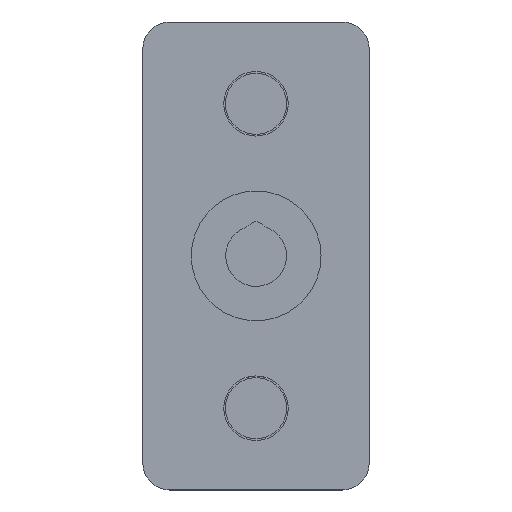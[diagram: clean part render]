
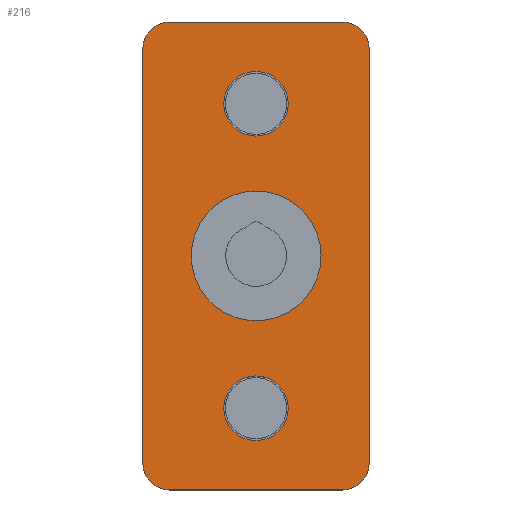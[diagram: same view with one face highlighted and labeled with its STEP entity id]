
A CAD part, top view. The second image highlights one B-rep face of the part: STEP entity #216.
In plain terms, the highlighted planar face has unit normal (0, 0, 1).
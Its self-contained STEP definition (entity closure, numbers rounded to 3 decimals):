
#216 = ADVANCED_FACE('',(#217,#287,#307,#327),#347,.T.);
#217 = FACE_BOUND('',#218,.T.);
#218 = EDGE_LOOP('',(#219,#229,#238,#246,#255,#263,#272,#280));
#219 = ORIENTED_EDGE('',*,*,#220,.T.);
#220 = EDGE_CURVE('',#221,#223,#225,.T.);
#221 = VERTEX_POINT('',#222);
#222 = CARTESIAN_POINT('',(59.5,-109.,6.));
#223 = VERTEX_POINT('',#224);
#224 = CARTESIAN_POINT('',(59.5,109.,
    6.));
#225 = LINE('',#226,#227);
#226 = CARTESIAN_POINT('',(59.5,-109.,6.));
#227 = VECTOR('',#228,1.);
#228 = DIRECTION('',(0.,1.,0.));
#229 = ORIENTED_EDGE('',*,*,#230,.T.);
#230 = EDGE_CURVE('',#223,#231,#233,.T.);
#231 = VERTEX_POINT('',#232);
#232 = CARTESIAN_POINT('',(45.5,123.,
    6.));
#233 = CIRCLE('',#234,14.);
#234 = AXIS2_PLACEMENT_3D('',#235,#236,#237);
#235 = CARTESIAN_POINT('',(45.5,109.,
    6.));
#236 = DIRECTION('',(0.,0.,1.));
#237 = DIRECTION('',(0.,-1.,0.));
#238 = ORIENTED_EDGE('',*,*,#239,.T.);
#239 = EDGE_CURVE('',#231,#240,#242,.T.);
#240 = VERTEX_POINT('',#241);
#241 = CARTESIAN_POINT('',(-45.5,123.,
    6.));
#242 = LINE('',#243,#244);
#243 = CARTESIAN_POINT('',(45.5,123.,
    6.));
#244 = VECTOR('',#245,1.);
#245 = DIRECTION('',(-1.,0.,0.));
#246 = ORIENTED_EDGE('',*,*,#247,.T.);
#247 = EDGE_CURVE('',#240,#248,#250,.T.);
#248 = VERTEX_POINT('',#249);
#249 = CARTESIAN_POINT('',(-59.5,109.,
    6.));
#250 = CIRCLE('',#251,14.);
#251 = AXIS2_PLACEMENT_3D('',#252,#253,#254);
#252 = CARTESIAN_POINT('',(-45.5,109.,
    6.));
#253 = DIRECTION('',(0.,0.,1.));
#254 = DIRECTION('',(0.,-1.,0.));
#255 = ORIENTED_EDGE('',*,*,#256,.T.);
#256 = EDGE_CURVE('',#248,#257,#259,.T.);
#257 = VERTEX_POINT('',#258);
#258 = CARTESIAN_POINT('',(-59.5,-109.,6.));
#259 = LINE('',#260,#261);
#260 = CARTESIAN_POINT('',(-59.5,109.,
    6.));
#261 = VECTOR('',#262,1.);
#262 = DIRECTION('',(0.,-1.,0.));
#263 = ORIENTED_EDGE('',*,*,#264,.T.);
#264 = EDGE_CURVE('',#257,#265,#267,.T.);
#265 = VERTEX_POINT('',#266);
#266 = CARTESIAN_POINT('',(-45.5,-123.,6.));
#267 = CIRCLE('',#268,14.);
#268 = AXIS2_PLACEMENT_3D('',#269,#270,#271);
#269 = CARTESIAN_POINT('',(-45.5,-109.,6.));
#270 = DIRECTION('',(0.,0.,1.));
#271 = DIRECTION('',(0.,-1.,0.));
#272 = ORIENTED_EDGE('',*,*,#273,.T.);
#273 = EDGE_CURVE('',#265,#274,#276,.T.);
#274 = VERTEX_POINT('',#275);
#275 = CARTESIAN_POINT('',(45.5,-123.,6.));
#276 = LINE('',#277,#278);
#277 = CARTESIAN_POINT('',(-45.5,-123.,6.));
#278 = VECTOR('',#279,1.);
#279 = DIRECTION('',(1.,0.,0.));
#280 = ORIENTED_EDGE('',*,*,#281,.T.);
#281 = EDGE_CURVE('',#274,#221,#282,.T.);
#282 = CIRCLE('',#283,14.);
#283 = AXIS2_PLACEMENT_3D('',#284,#285,#286);
#284 = CARTESIAN_POINT('',(45.5,-109.,6.));
#285 = DIRECTION('',(0.,0.,1.));
#286 = DIRECTION('',(0.,-1.,0.));
#287 = FACE_BOUND('',#288,.T.);
#288 = EDGE_LOOP('',(#289,#300));
#289 = ORIENTED_EDGE('',*,*,#290,.T.);
#290 = EDGE_CURVE('',#291,#293,#295,.T.);
#291 = VERTEX_POINT('',#292);
#292 = CARTESIAN_POINT('',(0.,-63.042,
    6.));
#293 = VERTEX_POINT('',#294);
#294 = CARTESIAN_POINT('',(0.,-96.954,
    6.));
#295 = CIRCLE('',#296,16.956);
#296 = AXIS2_PLACEMENT_3D('',#297,#298,#299);
#297 = CARTESIAN_POINT('',(0.,-79.998,
    6.));
#298 = DIRECTION('',(0.,0.,-1.));
#299 = DIRECTION('',(0.,1.,0.));
#300 = ORIENTED_EDGE('',*,*,#301,.T.);
#301 = EDGE_CURVE('',#293,#291,#302,.T.);
#302 = CIRCLE('',#303,16.956);
#303 = AXIS2_PLACEMENT_3D('',#304,#305,#306);
#304 = CARTESIAN_POINT('',(0.,-79.998,
    6.));
#305 = DIRECTION('',(0.,0.,-1.));
#306 = DIRECTION('',(0.,1.,0.));
#307 = FACE_BOUND('',#308,.T.);
#308 = EDGE_LOOP('',(#309,#320));
#309 = ORIENTED_EDGE('',*,*,#310,.T.);
#310 = EDGE_CURVE('',#311,#313,#315,.T.);
#311 = VERTEX_POINT('',#312);
#312 = CARTESIAN_POINT('',(0.,63.042,
    6.));
#313 = VERTEX_POINT('',#314);
#314 = CARTESIAN_POINT('',(0.,96.954,
    6.));
#315 = CIRCLE('',#316,16.956);
#316 = AXIS2_PLACEMENT_3D('',#317,#318,#319);
#317 = CARTESIAN_POINT('',(0.,79.998,
    6.));
#318 = DIRECTION('',(0.,0.,-1.));
#319 = DIRECTION('',(0.,-1.,0.));
#320 = ORIENTED_EDGE('',*,*,#321,.T.);
#321 = EDGE_CURVE('',#313,#311,#322,.T.);
#322 = CIRCLE('',#323,16.956);
#323 = AXIS2_PLACEMENT_3D('',#324,#325,#326);
#324 = CARTESIAN_POINT('',(0.,79.998,
    6.));
#325 = DIRECTION('',(0.,0.,-1.));
#326 = DIRECTION('',(0.,-1.,0.));
#327 = FACE_BOUND('',#328,.T.);
#328 = EDGE_LOOP('',(#329,#340));
#329 = ORIENTED_EDGE('',*,*,#330,.T.);
#330 = EDGE_CURVE('',#331,#333,#335,.T.);
#331 = VERTEX_POINT('',#332);
#332 = CARTESIAN_POINT('',(0.072,-34.063,
    6.));
#333 = VERTEX_POINT('',#334);
#334 = CARTESIAN_POINT('',(0.072,34.135,
    6.));
#335 = CIRCLE('',#336,34.099);
#336 = AXIS2_PLACEMENT_3D('',#337,#338,#339);
#337 = CARTESIAN_POINT('',(0.072,0.036,
    6.));
#338 = DIRECTION('',(0.,0.,-1.));
#339 = DIRECTION('',(0.,-1.,0.));
#340 = ORIENTED_EDGE('',*,*,#341,.T.);
#341 = EDGE_CURVE('',#333,#331,#342,.T.);
#342 = CIRCLE('',#343,34.099);
#343 = AXIS2_PLACEMENT_3D('',#344,#345,#346);
#344 = CARTESIAN_POINT('',(0.072,0.036,
    6.));
#345 = DIRECTION('',(0.,0.,-1.));
#346 = DIRECTION('',(0.,-1.,0.));
#347 = PLANE('',#348);
#348 = AXIS2_PLACEMENT_3D('',#349,#350,#351);
#349 = CARTESIAN_POINT('',(-60.5,-124.,6.));
#350 = DIRECTION('',(0.,0.,1.));
#351 = DIRECTION('',(1.,0.,0.));
